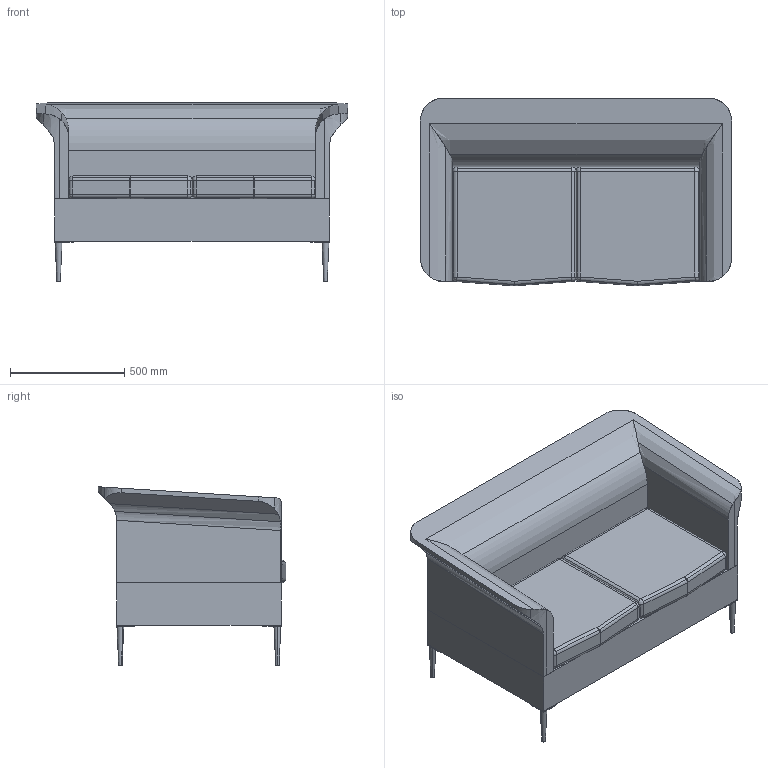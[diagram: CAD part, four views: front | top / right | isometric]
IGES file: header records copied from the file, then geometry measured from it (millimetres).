
Start section: IMSI TurboCAD v14.0
Global section: author: NULL; organization: NULL; date: 20121019.125224; units: millimetre
Bounding box: 1360 x 819.95 x 780 mm (x, y, z)
Surface area: 6763494.9 mm2 (no closed solid volume)
Topology: 0 solids, 0 shells, 176 faces, 816 edges, 796 vertices
Faces by surface type: revolution 108, extrusion 68
